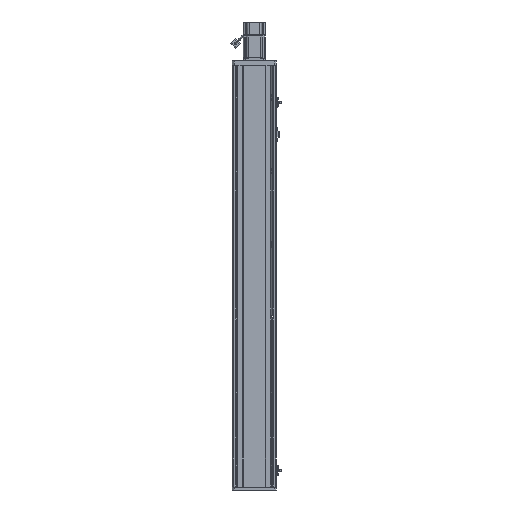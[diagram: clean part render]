
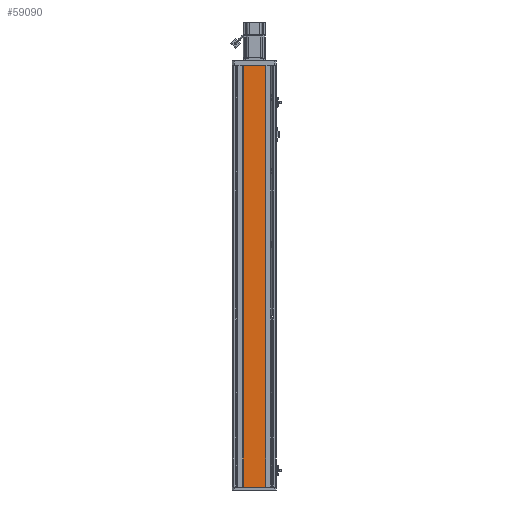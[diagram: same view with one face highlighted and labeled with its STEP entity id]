
A CAD part, front view. The second image highlights one B-rep face of the part: STEP entity #59090.
In plain terms, the highlighted planar face has unit normal (0, -1, 0).
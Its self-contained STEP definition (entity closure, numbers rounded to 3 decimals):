
#6835 = DIRECTION ( 'NONE',  ( -1., 0., 0. ) ) ;
#7289 = CARTESIAN_POINT ( 'NONE',  ( 30., 0., 0. ) ) ;
#8272 = VERTEX_POINT ( 'NONE', #17862 ) ;
#11297 = ORIENTED_EDGE ( 'NONE', *, *, #91660, .T. ) ;
#12155 = ORIENTED_EDGE ( 'NONE', *, *, #15933, .F. ) ;
#12178 = CARTESIAN_POINT ( 'NONE',  ( 30., 0., -1146.5 ) ) ;
#15001 = DIRECTION ( 'NONE',  ( -1., 0., 0. ) ) ;
#15933 = EDGE_CURVE ( 'NONE', #52882, #8272, #87627, .T. ) ;
#17143 = EDGE_CURVE ( 'NONE', #76585, #8272, #61792, .T. ) ;
#17862 = CARTESIAN_POINT ( 'NONE',  ( -30., 0., 0. ) ) ;
#20297 = EDGE_CURVE ( 'NONE', #107296, #52882, #55484, .T. ) ;
#33682 = AXIS2_PLACEMENT_3D ( 'NONE', #12178, #102502, #48418 ) ;
#37859 = VECTOR ( 'NONE', #6835, 1000. ) ;
#45161 = CARTESIAN_POINT ( 'NONE',  ( -30., 0., -1146.5 ) ) ;
#45352 = EDGE_LOOP ( 'NONE', ( #115405, #12155, #78196, #11297 ) ) ;
#48418 = DIRECTION ( 'NONE',  ( -1., 0., 0. ) ) ;
#52882 = VERTEX_POINT ( 'NONE', #45161 ) ;
#55484 = LINE ( 'NONE', #69070, #76737 ) ;
#59090 = ADVANCED_FACE ( 'NONE', ( #76458 ), #66157, .F. ) ;
#60422 = CARTESIAN_POINT ( 'NONE',  ( 30., 0., 0. ) ) ;
#61792 = LINE ( 'NONE', #60422, #37859 ) ;
#63541 = VECTOR ( 'NONE', #84384, 1000. ) ;
#66157 = PLANE ( 'NONE',  #33682 ) ;
#69070 = CARTESIAN_POINT ( 'NONE',  ( 30., 0., -1146.5 ) ) ;
#76458 = FACE_OUTER_BOUND ( 'NONE', #45352, .T. ) ;
#76585 = VERTEX_POINT ( 'NONE', #7289 ) ;
#76737 = VECTOR ( 'NONE', #15001, 1000. ) ;
#77151 = LINE ( 'NONE', #92501, #89790 ) ;
#78196 = ORIENTED_EDGE ( 'NONE', *, *, #20297, .F. ) ;
#84384 = DIRECTION ( 'NONE',  ( 0., 0., 1. ) ) ;
#87627 = LINE ( 'NONE', #113154, #63541 ) ;
#89790 = VECTOR ( 'NONE', #101552, 1000. ) ;
#91660 = EDGE_CURVE ( 'NONE', #107296, #76585, #77151, .T. ) ;
#92501 = CARTESIAN_POINT ( 'NONE',  ( 30., 0., -1146.5 ) ) ;
#95745 = CARTESIAN_POINT ( 'NONE',  ( 30., 0., -1146.5 ) ) ;
#101552 = DIRECTION ( 'NONE',  ( 0., 0., 1. ) ) ;
#102502 = DIRECTION ( 'NONE',  ( 0., 1., 0. ) ) ;
#107296 = VERTEX_POINT ( 'NONE', #95745 ) ;
#113154 = CARTESIAN_POINT ( 'NONE',  ( -30., 0., -1146.5 ) ) ;
#115405 = ORIENTED_EDGE ( 'NONE', *, *, #17143, .T. ) ;
